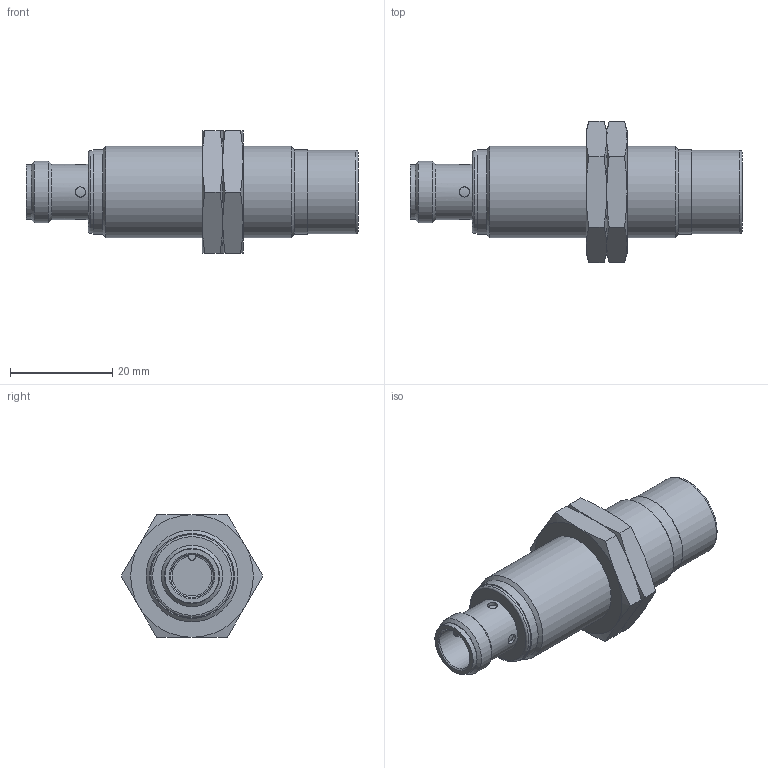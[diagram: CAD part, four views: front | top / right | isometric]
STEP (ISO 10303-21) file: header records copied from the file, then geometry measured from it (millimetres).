
FILE_DESCRIPTION( ( 'STEP AP203' ), ' ' );
FILE_NAME( 'p:/temp/worker_988/4160_8144/app_43_02018041611321954421487192d056f_000000_00_00_000000/format_6/IGW201.stp', '2018-04-16T09:32:27', ( '' ), ( '' ), ' ', 'PARTsolutions', ' ' );
FILE_SCHEMA( ( 'CONFIG_CONTROL_DESIGN' ) );
Length unit declared in the file: millimetre
Products named in the file (3): IGW201; _IGW201_part1; _IGW201_part2
Assembly tree (3 placements, depth 2):
  IGW201
    _IGW201_part1
    _IGW201_part2  x2
Bounding box: 65 x 27.71 x 24 mm (x, y, z)
Volume: 15556.4 mm3; surface area: 6123.9 mm2
Topology: 3 solids, 3 shells, 82 faces, 165 edges, 97 vertices
Faces by surface type: cone 33, plane 26, cylinder 20, torus 3
Full cylindrical faces by diameter (mm): 2 x4, 8.4 x1, 10.6 x1, 10.8 x1, 12 x1, 16.2 x1, 16.3 x1, 16.5 x1, 16.6 x1, 16.917 x2, 18 x1
Entity records: 1800 total; most frequent: CARTESIAN_POINT 614, DIRECTION 224, ORIENTED_EDGE 180, AXIS2_PLACEMENT_3D 105, EDGE_LOOP 93, EDGE_CURVE 90, FACE_OUTER_BOUND 75, VERTEX_POINT 67
